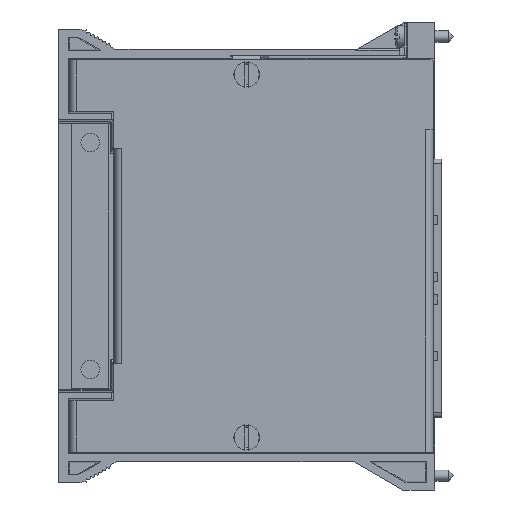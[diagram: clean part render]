
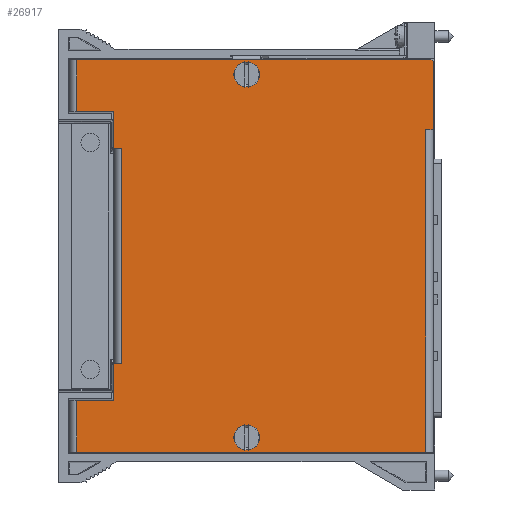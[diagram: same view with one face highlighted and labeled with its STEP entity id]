
A CAD part, top view. The second image highlights one B-rep face of the part: STEP entity #26917.
In plain terms, the highlighted planar face has unit normal (0, 0, 1).
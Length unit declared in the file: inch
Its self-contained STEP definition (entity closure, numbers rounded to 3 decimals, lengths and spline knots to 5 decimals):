
#4491=DIRECTION('',(0.,1.,0.));
#4492=VECTOR('',#4491,0.4575);
#4493=CARTESIAN_POINT('',(-3.15545,-1.73,0.382));
#4494=LINE('',#4493,#4492);
#4514=DIRECTION('',(0.,1.,0.));
#4515=VECTOR('',#4514,0.3225);
#4516=CARTESIAN_POINT('',(-2.82745,-1.2725,0.382));
#4517=LINE('',#4516,#4515);
#4518=DIRECTION('',(-1.,0.,0.));
#4519=VECTOR('',#4518,0.067);
#4520=CARTESIAN_POINT('',(-2.76045,-0.95,0.382));
#4521=LINE('',#4520,#4519);
#4522=DIRECTION('',(-1.,0.,0.));
#4523=VECTOR('',#4522,0.067);
#4524=CARTESIAN_POINT('',(-2.76045,0.95,0.382));
#4525=LINE('',#4524,#4523);
#4526=DIRECTION('',(0.,1.,0.));
#4527=VECTOR('',#4526,0.3225);
#4528=CARTESIAN_POINT('',(-2.82745,0.95,0.382));
#4529=LINE('',#4528,#4527);
#4530=DIRECTION('',(1.,0.,0.));
#4531=VECTOR('',#4530,0.328);
#4532=CARTESIAN_POINT('',(-3.15545,1.2725,0.382));
#4533=LINE('',#4532,#4531);
#4534=DIRECTION('',(-1.,0.,0.));
#4535=VECTOR('',#4534,3.123);
#4536=CARTESIAN_POINT('',(-0.03245,1.73,0.382));
#4537=LINE('',#4536,#4535);
#4538=DIRECTION('',(0.,1.,0.));
#4539=VECTOR('',#4538,0.595);
#4540=CARTESIAN_POINT('',(-0.01245,1.115,0.382));
#4541=LINE('',#4540,#4539);
#4542=DIRECTION('',(1.,0.,0.));
#4543=VECTOR('',#4542,0.067);
#4544=CARTESIAN_POINT('',(-0.07945,1.115,0.382));
#4545=LINE('',#4544,#4543);
#4546=DIRECTION('',(1.,0.,0.));
#4547=VECTOR('',#4546,3.076);
#4548=CARTESIAN_POINT('',(-3.15545,-1.73,0.382));
#4549=LINE('',#4548,#4547);
#4550=DIRECTION('',(1.,0.,0.));
#4551=VECTOR('',#4550,0.328);
#4552=CARTESIAN_POINT('',(-3.15545,-1.2725,0.382));
#4553=LINE('',#4552,#4551);
#4554=CARTESIAN_POINT('',(-1.65625,-1.6,0.382));
#4555=DIRECTION('',(0.,0.,-1.));
#4556=DIRECTION('',(-0.159,0.987,0.));
#4557=AXIS2_PLACEMENT_3D('',#4554,#4555,#4556);
#4559=CARTESIAN_POINT('',(-1.65625,-1.6,0.382));
#4560=DIRECTION('',(0.,0.,-1.));
#4561=DIRECTION('',(0.159,-0.987,0.));
#4562=AXIS2_PLACEMENT_3D('',#4559,#4560,#4561);
#4564=CARTESIAN_POINT('',(-1.65625,1.6,0.382));
#4565=DIRECTION('',(0.,0.,1.));
#4566=DIRECTION('',(0.159,0.987,0.));
#4567=AXIS2_PLACEMENT_3D('',#4564,#4565,#4566);
#4569=CARTESIAN_POINT('',(-1.65625,1.6,0.382));
#4570=DIRECTION('',(0.,0.,1.));
#4571=DIRECTION('',(-0.159,-0.987,0.));
#4572=AXIS2_PLACEMENT_3D('',#4569,#4570,#4571);
#5290=DIRECTION('',(0.,1.,0.));
#5291=VECTOR('',#5290,0.4575);
#5292=CARTESIAN_POINT('',(-3.15545,1.2725,0.382));
#5293=LINE('',#5292,#5291);
#5395=DIRECTION('',(0.,-1.,0.));
#5396=VECTOR('',#5395,1.9);
#5397=CARTESIAN_POINT('',(-2.76045,0.95,0.382));
#5398=LINE('',#5397,#5396);
#6182=DIRECTION('',(-0.707,0.707,0.));
#6183=VECTOR('',#6182,0.02828);
#6184=CARTESIAN_POINT('',(-0.01245,1.71,0.382));
#6185=LINE('',#6184,#6183);
#6255=DIRECTION('',(0.,-1.,0.));
#6256=VECTOR('',#6255,2.845);
#6257=CARTESIAN_POINT('',(-0.07945,1.115,0.382));
#6258=LINE('',#6257,#6256);
#6356=CARTESIAN_POINT('',(-1.67375,-1.4914,0.382));
#6358=CARTESIAN_POINT('',(-1.63875,-1.4914,0.382));
#6383=CARTESIAN_POINT('',(-1.63875,-1.7086,0.382));
#6385=CARTESIAN_POINT('',(-1.67375,-1.7086,0.382));
#6409=CARTESIAN_POINT('',(-1.65625,-1.6,0.382));
#6410=DIRECTION('',(0.,0.,-1.));
#6411=DIRECTION('',(0.159,0.987,0.));
#6412=AXIS2_PLACEMENT_3D('',#6409,#6410,#6411);
#6430=CARTESIAN_POINT('',(-1.65625,-1.6,0.382));
#6431=DIRECTION('',(0.,0.,-1.));
#6432=DIRECTION('',(-0.159,-0.987,0.));
#6433=AXIS2_PLACEMENT_3D('',#6430,#6431,#6432);
#6449=CARTESIAN_POINT('',(-1.67375,1.7086,0.382));
#6461=CARTESIAN_POINT('',(-1.63875,1.7086,0.382));
#6488=CARTESIAN_POINT('',(-1.65625,1.6,0.382));
#6489=DIRECTION('',(0.,0.,-1.));
#6490=DIRECTION('',(0.159,0.987,0.));
#6491=AXIS2_PLACEMENT_3D('',#6488,#6489,#6490);
#6502=CARTESIAN_POINT('',(-1.63875,1.4914,0.382));
#6514=CARTESIAN_POINT('',(-1.67375,1.4914,0.382));
#6528=CARTESIAN_POINT('',(-1.65625,1.6,0.382));
#6529=DIRECTION('',(0.,0.,-1.));
#6530=DIRECTION('',(-0.159,-0.987,0.));
#6531=AXIS2_PLACEMENT_3D('',#6528,#6529,#6530);
#18477=CARTESIAN_POINT('',(-3.15545,1.73,0.382));
#18479=VERTEX_POINT('',#18477);
#18481=CARTESIAN_POINT('',(-3.15545,-1.73,0.382));
#18483=VERTEX_POINT('',#18481);
#18492=CARTESIAN_POINT('',(-3.15545,-1.2725,0.382));
#18493=CARTESIAN_POINT('',(-2.82745,-1.2725,0.382));
#18494=VERTEX_POINT('',#18492);
#18495=VERTEX_POINT('',#18493);
#18496=CARTESIAN_POINT('',(-3.15545,1.2725,0.382));
#18497=CARTESIAN_POINT('',(-2.82745,1.2725,0.382));
#18498=VERTEX_POINT('',#18496);
#18499=VERTEX_POINT('',#18497);
#18536=CARTESIAN_POINT('',(-0.07945,1.115,0.382));
#18537=CARTESIAN_POINT('',(-0.01245,1.115,0.382));
#18538=VERTEX_POINT('',#18536);
#18539=VERTEX_POINT('',#18537);
#18548=CARTESIAN_POINT('',(-0.07945,-1.73,0.382));
#18549=VERTEX_POINT('',#18548);
#18560=CARTESIAN_POINT('',(-2.76045,0.95,0.382));
#18561=CARTESIAN_POINT('',(-2.82745,0.95,0.382));
#18562=VERTEX_POINT('',#18560);
#18563=VERTEX_POINT('',#18561);
#18568=CARTESIAN_POINT('',(-2.76045,-0.95,0.382));
#18569=CARTESIAN_POINT('',(-2.82745,-0.95,0.382));
#18570=VERTEX_POINT('',#18568);
#18571=VERTEX_POINT('',#18569);
#18648=CARTESIAN_POINT('',(-0.01245,1.71,0.382));
#18649=CARTESIAN_POINT('',(-0.03245,1.73,0.382));
#18650=VERTEX_POINT('',#18648);
#18651=VERTEX_POINT('',#18649);
#18762=VERTEX_POINT('',#6383);
#18763=VERTEX_POINT('',#6385);
#18768=VERTEX_POINT('',#6358);
#18769=VERTEX_POINT('',#6356);
#18806=VERTEX_POINT('',#6461);
#18807=VERTEX_POINT('',#6449);
#18812=VERTEX_POINT('',#6502);
#18813=VERTEX_POINT('',#6514);
#26864=CARTESIAN_POINT('',(-3.22245,0.,0.382));
#26865=DIRECTION('',(0.,0.,1.));
#26866=DIRECTION('',(1.,0.,0.));
#26867=AXIS2_PLACEMENT_3D('',#26864,#26865,#26866);
#26868=PLANE('',#26867);
#26870=ORIENTED_EDGE('',*,*,#26869,.T.);
#26872=ORIENTED_EDGE('',*,*,#26871,.F.);
#26874=ORIENTED_EDGE('',*,*,#26873,.F.);
#26876=ORIENTED_EDGE('',*,*,#26875,.T.);
#26878=ORIENTED_EDGE('',*,*,#26877,.T.);
#26880=ORIENTED_EDGE('',*,*,#26879,.F.);
#26882=ORIENTED_EDGE('',*,*,#26881,.T.);
#26883=ORIENTED_EDGE('',*,*,#25704,.F.);
#26885=ORIENTED_EDGE('',*,*,#26884,.F.);
#26887=ORIENTED_EDGE('',*,*,#26886,.F.);
#26889=ORIENTED_EDGE('',*,*,#26888,.F.);
#26891=ORIENTED_EDGE('',*,*,#26890,.T.);
#26892=ORIENTED_EDGE('',*,*,#26664,.F.);
#26893=ORIENTED_EDGE('',*,*,#26834,.T.);
#26894=ORIENTED_EDGE('',*,*,#26847,.T.);
#26895=EDGE_LOOP('',(#26870,#26872,#26874,#26876,#26878,#26880,#26882,#26883,
#26885,#26887,#26889,#26891,#26892,#26893,#26894));
#26896=FACE_OUTER_BOUND('',#26895,.F.);
#26898=ORIENTED_EDGE('',*,*,#26897,.F.);
#26900=ORIENTED_EDGE('',*,*,#26899,.F.);
#26902=ORIENTED_EDGE('',*,*,#26901,.F.);
#26904=ORIENTED_EDGE('',*,*,#26903,.F.);
#26905=EDGE_LOOP('',(#26898,#26900,#26902,#26904));
#26906=FACE_BOUND('',#26905,.F.);
#26908=ORIENTED_EDGE('',*,*,#26907,.T.);
#26910=ORIENTED_EDGE('',*,*,#26909,.F.);
#26912=ORIENTED_EDGE('',*,*,#26911,.T.);
#26914=ORIENTED_EDGE('',*,*,#26913,.F.);
#26915=EDGE_LOOP('',(#26908,#26910,#26912,#26914));
#26916=FACE_BOUND('',#26915,.F.);
#26917=ADVANCED_FACE('',(#26896,#26906,#26916),#26868,.T.);
#4558=CIRCLE('',#4557,0.11);
#4563=CIRCLE('',#4562,0.11);
#4568=CIRCLE('',#4567,0.11);
#4573=CIRCLE('',#4572,0.11);
#6413=CIRCLE('',#6412,0.11);
#6434=CIRCLE('',#6433,0.11);
#6492=CIRCLE('',#6491,0.11);
#6532=CIRCLE('',#6531,0.11);
#25704=EDGE_CURVE('',#18651,#18479,#4537,.T.);
#26664=EDGE_CURVE('',#18483,#18549,#4549,.T.);
#26834=EDGE_CURVE('',#18483,#18494,#4494,.T.);
#26847=EDGE_CURVE('',#18494,#18495,#4553,.T.);
#26869=EDGE_CURVE('',#18495,#18571,#4517,.T.);
#26871=EDGE_CURVE('',#18570,#18571,#4521,.T.);
#26873=EDGE_CURVE('',#18562,#18570,#5398,.T.);
#26875=EDGE_CURVE('',#18562,#18563,#4525,.T.);
#26877=EDGE_CURVE('',#18563,#18499,#4529,.T.);
#26879=EDGE_CURVE('',#18498,#18499,#4533,.T.);
#26881=EDGE_CURVE('',#18498,#18479,#5293,.T.);
#26884=EDGE_CURVE('',#18650,#18651,#6185,.T.);
#26886=EDGE_CURVE('',#18539,#18650,#4541,.T.);
#26888=EDGE_CURVE('',#18538,#18539,#4545,.T.);
#26890=EDGE_CURVE('',#18538,#18549,#6258,.T.);
#26897=EDGE_CURVE('',#18769,#18768,#4558,.T.);
#26899=EDGE_CURVE('',#18763,#18769,#6434,.T.);
#26901=EDGE_CURVE('',#18762,#18763,#4563,.T.);
#26903=EDGE_CURVE('',#18768,#18762,#6413,.T.);
#26907=EDGE_CURVE('',#18806,#18807,#4568,.T.);
#26909=EDGE_CURVE('',#18813,#18807,#6532,.T.);
#26911=EDGE_CURVE('',#18813,#18812,#4573,.T.);
#26913=EDGE_CURVE('',#18806,#18812,#6492,.T.);
